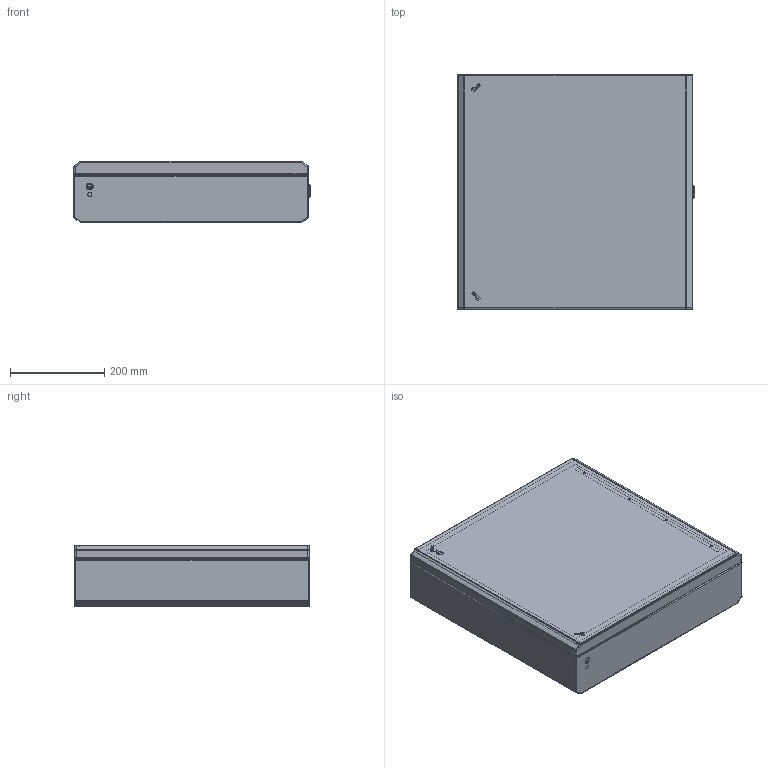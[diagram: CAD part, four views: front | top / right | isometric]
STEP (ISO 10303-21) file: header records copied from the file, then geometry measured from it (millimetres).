
FILE_DESCRIPTION (( 'STEP AP203' ), '1' );
FILE_NAME ('BK55A-COM.step', '2023-09-19T13:20:00', ( '' ), ( '' ), 'SwSTEP 2.0', 'SolidWorks 2021', '' );
FILE_SCHEMA (( 'CONFIG_CONTROL_DESIGN' ));
Length unit declared in the file: millimetre
Products named in the file (19): Scarpetta Box serie BK; OLD-ADMT_ADMT; Porte Box BK33-BK75M_POBK55;  1000-U134^ SG215S_Assiemi Box serie BK33-BK75M; Guarnizione Schiumata 13x6.5_GBK55-GBK55M; PRM615TL316; 1000-24^1000-u183_ SG215S_Assiemi Box serie BK33-BK75M; Staffa Serraggio Box BK_SSBKH500; 1000-03-PG^1000-u183_ SG215S_Assiemi Box serie BK33-BK75M; 1000-277-01PI^1000-u183_ SG215S_Assiemi Box serie BK33-BK75M; 1000-u183^ SG215S_Assiemi Box serie BK33-BK75M; 1000-02-RA_1^ 1000-U134_ SG215S_Assiemi Box serie BK33-BK75M; Parte7^ SG215S_Assiemi Box serie BK33-BK75M; 1000-101-GPF_GPD_1^ 1000-U134_ SG215S_Assiemi Box serie BK33-BK75M;  SG215S^Assiemi Box serie BK33-BK75M_Chiusura_BASSO; BK55A-COM; Fasciame FABK33- FABK75M_FABK55; 1000-156-01^1000-u183_ SG215S_Assiemi Box serie BK33-BK75M; LOGO_ILINOX
Assembly tree (23 placements, depth 4):
  BK55A-COM
    Fasciame FABK33- FABK75M_FABK55
    Porte Box BK33-BK75M_POBK55
    Guarnizione Schiumata 13x6.5_GBK55-GBK55M
    Staffa Serraggio Box BK_SSBKH500
    Scarpetta Box serie BK
     SG215S^Assiemi Box serie BK33-BK75M_Chiusura_BASSO
       1000-U134^ SG215S_Assiemi Box serie BK33-BK75M
        1000-101-GPF_GPD_1^ 1000-U134_ SG215S_Assiemi Box serie BK33-BK75M
        1000-02-RA_1^ 1000-U134_ SG215S_Assiemi Box serie BK33-BK75M
      1000-u183^ SG215S_Assiemi Box serie BK33-BK75M
        1000-156-01^1000-u183_ SG215S_Assiemi Box serie BK33-BK75M
        1000-03-PG^1000-u183_ SG215S_Assiemi Box serie BK33-BK75M
        1000-24^1000-u183_ SG215S_Assiemi Box serie BK33-BK75M
        1000-277-01PI^1000-u183_ SG215S_Assiemi Box serie BK33-BK75M
      Parte7^ SG215S_Assiemi Box serie BK33-BK75M
    OLD-ADMT_ADMT  x2
    LOGO_ILINOX  x2
    PRM615TL316  x4
Bounding box: 504 x 500 x 130.1 mm (x, y, z)
Volume: 1363097.8 mm3; surface area: 1721470.1 mm2
Topology: 41 solids, 42 shells, 1025 faces, 2411 edges, 1474 vertices
Faces by surface type: plane 534, cylinder 362, sphere 42, cone 40, bspline 31, torus 16
Entity records: 30274 total; most frequent: CARTESIAN_POINT 7339, DIRECTION 4537, ORIENTED_EDGE 4171, EDGE_CURVE 2089, AXIS2_PLACEMENT_3D 1690, VERTEX_POINT 1292, LINE 1157, VECTOR 1157
